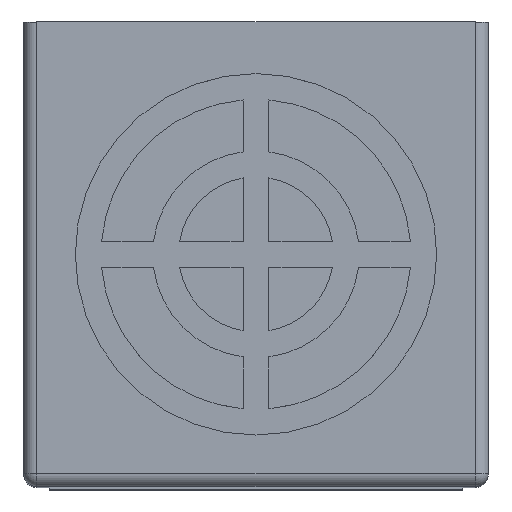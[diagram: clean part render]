
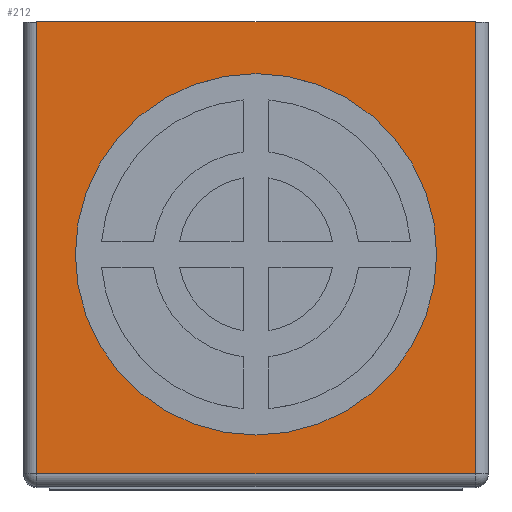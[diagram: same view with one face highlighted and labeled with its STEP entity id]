
A CAD part, top view. The second image highlights one B-rep face of the part: STEP entity #212.
In plain terms, the highlighted planar face has unit normal (0, 0, 1).
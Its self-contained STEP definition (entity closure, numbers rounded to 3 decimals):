
#212=ADVANCED_FACE('',(#1045,#1047),#1049,.T.);
#1045=FACE_BOUND('',#1046,.T.);
#1046=EDGE_LOOP('',(#1709,#1710,#1711,#1712));
#1047=FACE_BOUND('',#1048,.T.);
#1048=EDGE_LOOP('',(#1713));
#1049=PLANE('',#1050);
#1050=AXIS2_PLACEMENT_3D('',#1051,#1052,#1053);
#1051=CARTESIAN_POINT('',(0.,0.,0.));
#1052=DIRECTION('',(0.,0.,1.));
#1053=DIRECTION('',(1.,0.,0.));
#1709=ORIENTED_EDGE('',*,*,#2113,.T.);
#1710=ORIENTED_EDGE('',*,*,#2114,.T.);
#1711=ORIENTED_EDGE('',*,*,#2115,.T.);
#1712=ORIENTED_EDGE('',*,*,#2082,.T.);
#1713=ORIENTED_EDGE('',*,*,#2116,.T.);
#2082=EDGE_CURVE('',#2318,#2316,#2319,.T.);
#2113=EDGE_CURVE('',#2316,#2372,#2373,.T.);
#2114=EDGE_CURVE('',#2372,#2374,#2375,.T.);
#2115=EDGE_CURVE('',#2374,#2318,#2376,.T.);
#2116=EDGE_CURVE('',#2377,#2377,#2378,.F.);
#2316=VERTEX_POINT('',#2723);
#2318=VERTEX_POINT('',#2728);
#2319=LINE('',#2729,#2730);
#2372=VERTEX_POINT('',#2853);
#2373=LINE('',#2854,#2855);
#2374=VERTEX_POINT('',#2857);
#2375=LINE('',#2858,#2859);
#2376=LINE('',#2861,#2862);
#2377=VERTEX_POINT('',#2864);
#2378=CIRCLE('',#2865,7.);
#2723=CARTESIAN_POINT('',(-8.5,9.,0.));
#2728=CARTESIAN_POINT('',(8.5,9.,0.));
#2729=CARTESIAN_POINT('',(8.5,9.,0.));
#2730=VECTOR('',#2731,1.);
#2731=DIRECTION('',(-1.,0.,0.));
#2853=CARTESIAN_POINT('',(-8.5,-8.5,0.));
#2854=CARTESIAN_POINT('',(-8.5,9.,0.));
#2855=VECTOR('',#2856,1.);
#2856=DIRECTION('',(0.,-1.,0.));
#2857=CARTESIAN_POINT('',(8.5,-8.5,0.));
#2858=CARTESIAN_POINT('',(-8.5,-8.5,0.));
#2859=VECTOR('',#2860,1.);
#2860=DIRECTION('',(1.,0.,0.));
#2861=CARTESIAN_POINT('',(8.5,-8.5,0.));
#2862=VECTOR('',#2863,1.);
#2863=DIRECTION('',(0.,1.,0.));
#2864=CARTESIAN_POINT('',(7.,0.,0.));
#2865=AXIS2_PLACEMENT_3D('',#2866,#2867,#2868);
#2866=CARTESIAN_POINT('',(0.,0.,0.));
#2867=DIRECTION('',(0.,0.,1.));
#2868=DIRECTION('',(1.,0.,0.));
